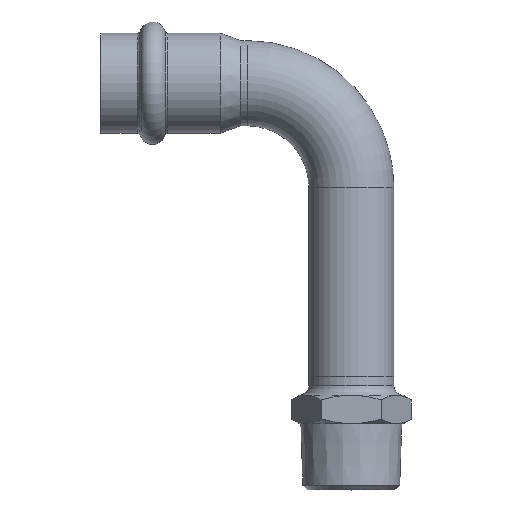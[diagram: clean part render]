
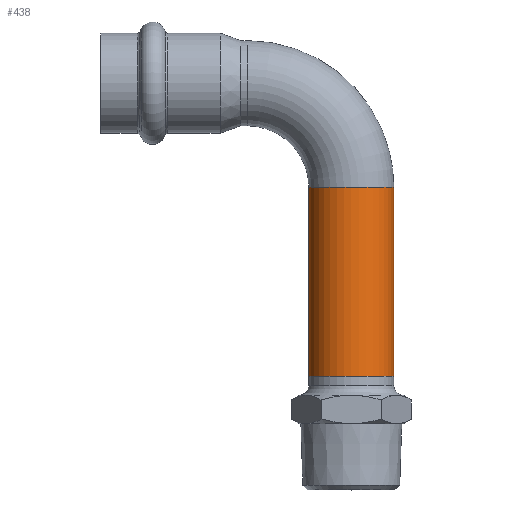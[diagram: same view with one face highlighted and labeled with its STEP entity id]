
A CAD part, top view. The second image highlights one B-rep face of the part: STEP entity #438.
In plain terms, the highlighted cylindrical face has radius 9 mm (diameter 18 mm), a full revolution.
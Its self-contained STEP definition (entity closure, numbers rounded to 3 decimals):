
#411=CARTESIAN_POINT('',(22.0,-22.0,0.0));
#412=DIRECTION('',(0.,-1.0,0.0));
#413=DIRECTION('',(0.0,0.0,1.0));
#414=AXIS2_PLACEMENT_3D('',#411,#412,#413);
#415=CYLINDRICAL_SURFACE('',#414,9.);
#416=CARTESIAN_POINT('',(22.,-62.,-9.));
#417=VERTEX_POINT('',#416);
#418=CARTESIAN_POINT('',(22.,-62.,0.0));
#419=DIRECTION('',(0.0,1.0,0.0));
#420=DIRECTION('',(0.0,0.0,1.0));
#421=AXIS2_PLACEMENT_3D('',#418,#419,#420);
#422=CIRCLE('',#421,9.);
#423=EDGE_CURVE('',#417,#417,#422,.T.);
#424=ORIENTED_EDGE('',*,*,#423,.T.);
#425=EDGE_LOOP('',(#424));
#426=FACE_OUTER_BOUND('',#425,.T.);
#427=CARTESIAN_POINT('',(22.,-22.,-9.));
#428=VERTEX_POINT('',#427);
#429=CARTESIAN_POINT('',(22.0,-22.0,0.0));
#430=DIRECTION('',(0.0,1.0,0.0));
#431=DIRECTION('',(0.0,0.0,1.0));
#432=AXIS2_PLACEMENT_3D('',#429,#430,#431);
#433=CIRCLE('',#432,9.);
#434=EDGE_CURVE('',#428,#428,#433,.T.);
#435=ORIENTED_EDGE('',*,*,#434,.F.);
#436=EDGE_LOOP('',(#435));
#437=FACE_BOUND('',#436,.T.);
#438=ADVANCED_FACE('',(#426,#437),#415,.T.);
